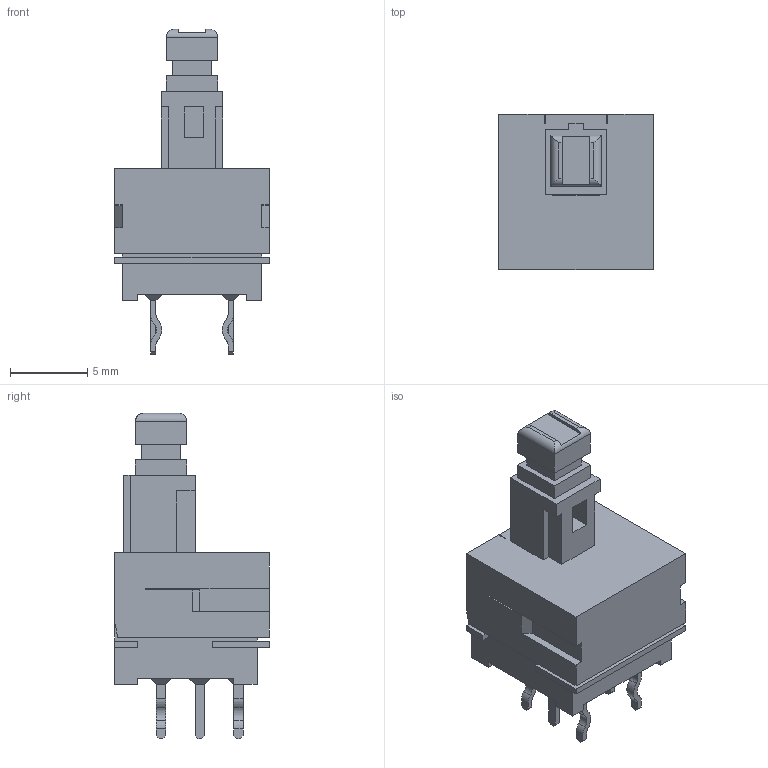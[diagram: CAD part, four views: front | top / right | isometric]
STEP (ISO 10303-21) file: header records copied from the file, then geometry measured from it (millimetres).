
FILE_DESCRIPTION (( 'STEP AP214' ), '1' );
FILE_NAME ('SPPH130500-REVISED.STEP', '2019-12-05T01:57:55', ( '' ), ( '' ), 'SwSTEP 2.0', 'SolidWorks 2019', '' );
FILE_SCHEMA (( 'AUTOMOTIVE_DESIGN' ));
Length unit declared in the file: millimetre
Products named in the file (1): SPPH130500-REVISED
Bounding box: 10 x 10 x 21 mm (x, y, z)
Volume: 884.1 mm3; surface area: 772 mm2
Topology: 1 solids, 1 shells, 207 faces, 552 edges, 358 vertices
Faces by surface type: plane 179, cylinder 28
Entity records: 7650 total; most frequent: CARTESIAN_POINT 1130, ORIENTED_EDGE 1104, DIRECTION 1016, EDGE_CURVE 552, VECTOR 496, LINE 496, VERTEX_POINT 358, AXIS2_PLACEMENT_3D 260
